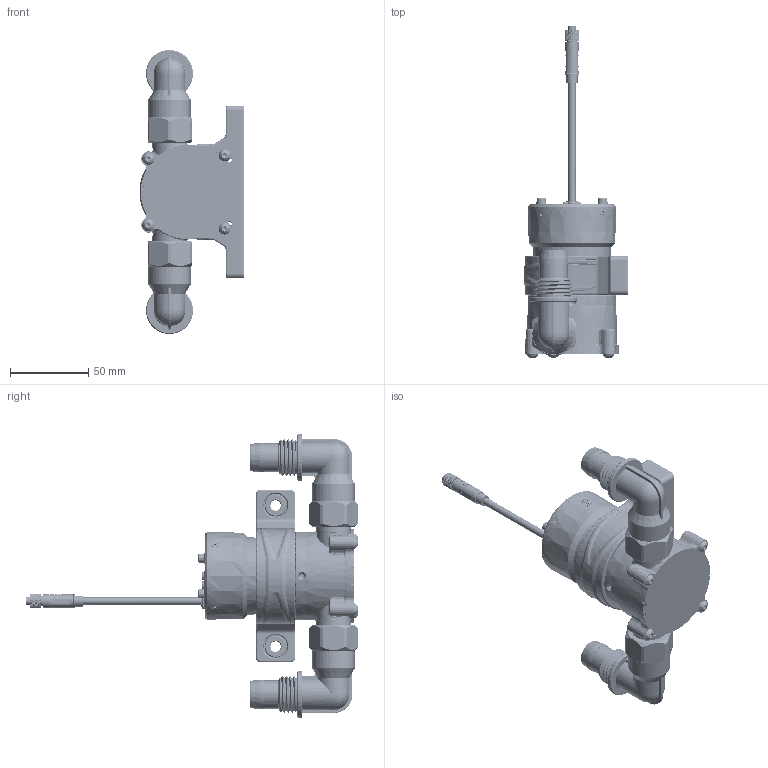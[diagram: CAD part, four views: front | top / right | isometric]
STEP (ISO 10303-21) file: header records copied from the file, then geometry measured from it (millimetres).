
FILE_DESCRIPTION (( 'STEP AP203' ), '1' );
FILE_NAME ('叶轮泵总装-带转接头-对外.STEP', '2025-01-16T03:27:33', ( '' ), ( '' ), 'SwSTEP 2.0', 'SolidWorks 2021', '' );
FILE_SCHEMA (( 'CONFIG_CONTROL_DESIGN' ));
Products named in the file (3): 171070507AB-L型转接头-D16-叶轮泵-黑色; 珔謫掙軞蚾-勤俋.step; 叶轮泵总装-带转接头-对外
Assembly tree (3 placements, depth 2):
  叶轮泵总装-带转接头-对外
    171070507AB-L型转接头-D16-叶轮泵-黑色  x2
    珔謫掙軞蚾-勤俋.step
Bounding box: 66.87 x 211.6 x 181 mm (x, y, z)
Volume: 39409.5 mm3; surface area: 143050 mm2
Topology: 4 solids, 43 shells, 8346 faces, 21550 edges, 13370 vertices
Faces by surface type: cylinder 3338, plane 2719, bspline 1317, torus 457, cone 438, sphere 77
Entity records: 372559 total; most frequent: CARTESIAN_POINT 221364, ORIENTED_EDGE 41988, EDGE_CURVE 20996, B_SPLINE_CURVE_WITH_KNOTS 20186, DIRECTION 14260, VERTEX_POINT 13110, EDGE_LOOP 8465, FACE_OUTER_BOUND 8162
